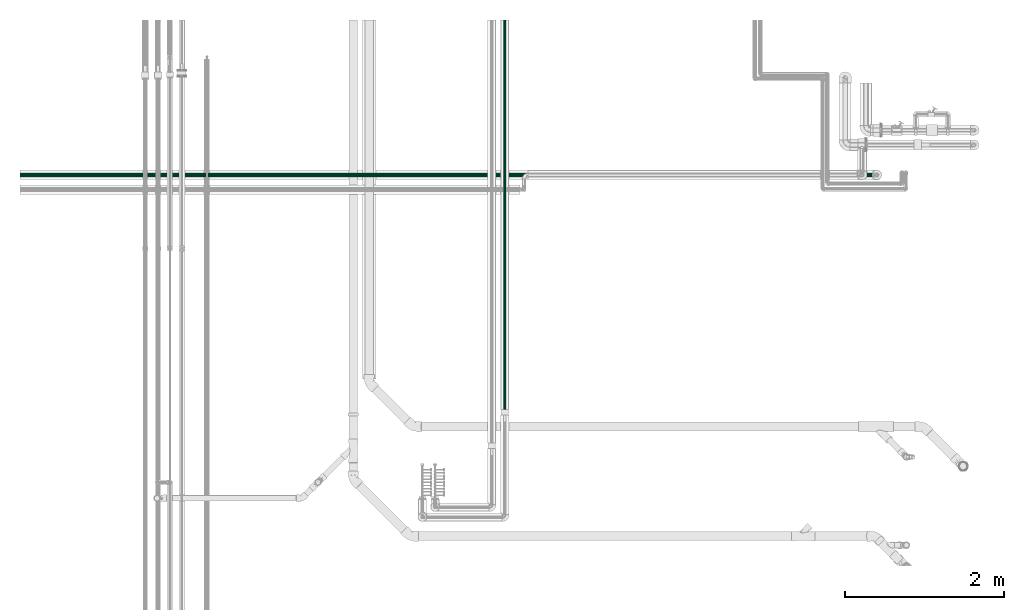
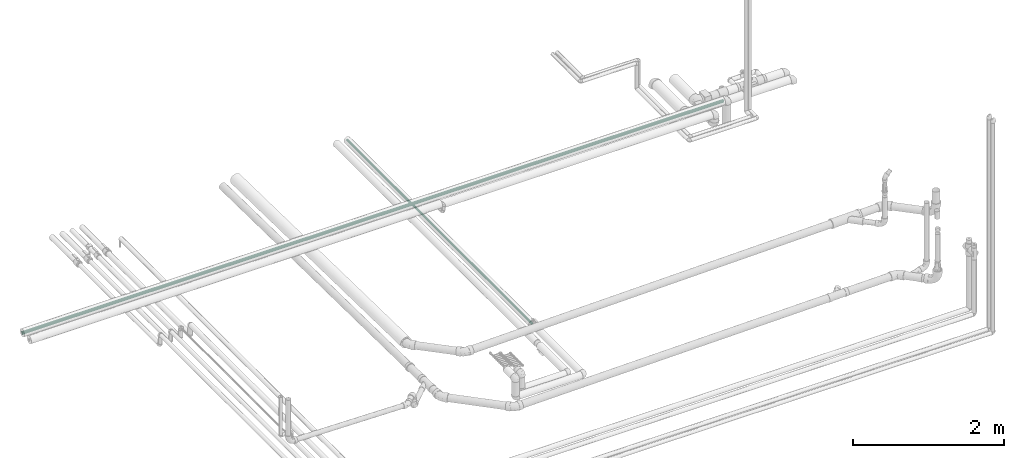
# One storey, part 53 of 83: 2 flow segments.
"""IFC2X3 building model written with IfcOpenShell, lengths in millimetres."""

from ifc_helpers import new_model, entity, si_unit, converted_unit, derived_unit, direction, frame, place, context, subcontext, project, spatial, faceted_brep, type_object, element, save


model = new_model("IFC2X3")

# Units and contexts
model_context = context("Model", 3, precision=0.01, world=frame((0.0, 4.29681676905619e-09, 0.0)), true_north=direction((4.01073788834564e-13, 1.0)))
plan_context = context("Plan", 3, precision=0.01, world=frame((0.0, 4.29681676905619e-09, 0.0)), true_north=direction((4.01073788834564e-13, 1.0)))
body_context = subcontext(model_context, "Body", "Model", "MODEL_VIEW")
ifc_project = project(units=[converted_unit("PLANEANGLEUNIT", "DEGREE", entity("IfcPositiveLengthMeasure", 0.0174532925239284), si_unit("PLANEANGLEUNIT", "RADIAN"), dimensions=[0, 0, 0, 0, 0, 0, 0]), si_unit("AREAUNIT", "SQUARE_METRE"), si_unit("LENGTHUNIT", "METRE", prefix="MILLI"), si_unit("MASSUNIT", "GRAM", prefix="KILO"), si_unit("POWERUNIT", "WATT"), si_unit("PRESSUREUNIT", "PASCAL"), si_unit("FORCEUNIT", "NEWTON", prefix="KILO"), si_unit("ELECTRICVOLTAGEUNIT", "VOLT"), si_unit("ELECTRICCURRENTUNIT", "AMPERE"), si_unit("THERMODYNAMICTEMPERATUREUNIT", "DEGREE_CELSIUS"), si_unit("TIMEUNIT", "SECOND"), si_unit("VOLUMEUNIT", "CUBIC_METRE"), derived_unit("LINEARVELOCITYUNIT", [(si_unit("LENGTHUNIT", "METRE"), 1), (si_unit("TIMEUNIT", "SECOND"), -1)]), derived_unit("VOLUMETRICFLOWRATEUNIT", [(si_unit("VOLUMEUNIT", "CUBIC_METRE"), 1), (si_unit("TIMEUNIT", "SECOND"), -1)]), derived_unit("THERMALTRANSMITTANCEUNIT", [(si_unit("POWERUNIT", "WATT"), 1), (si_unit("THERMODYNAMICTEMPERATUREUNIT", "KELVIN"), -1), (si_unit("AREAUNIT", "SQUARE_METRE"), -1)]), derived_unit("SOUNDPRESSUREUNIT", [(si_unit("PRESSUREUNIT", "PASCAL"), 1)])], contexts=[model_context, plan_context])

# Site, building, storey
site_placement = place(None, frame((0.0, -4.29681676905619e-09, 0.0), z_axis=(0.0, 0.0, 1.0), x_axis=(1.0, 0.0, 0.0)))
site = spatial("IfcSite", under=ifc_project, at=site_placement, Name="ENGM", CompositionType="ELEMENT")
building_placement = place(site_placement, frame((0.0, 4.29681676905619e-09, 0.0), z_axis=(0.0, 0.0, 1.0), x_axis=(1.0, 0.0, 0.0)))
building = spatial("IfcBuilding", under=site, at=building_placement, Name="TI", CompositionType="ELEMENT")
storey_placement = place(building_placement, frame((0.0, 0.0, 204000.0), z_axis=(0.0, 0.0, 1.0), x_axis=(1.0, 0.0, 0.0)))
storey = spatial("IfcBuildingStorey", under=building, at=storey_placement, Name="Nivå D", CompositionType="ELEMENT", Elevation=204000.0)

# Flow segments
pipe_segment_type = type_object("IfcPipeSegmentType", Name="Stålrør normaltykke", PredefinedType="RIGIDSEGMENT")
flow_segment_1_placement = place(storey_placement, frame((604084.1909, 694586.17748, 6040.48848), z_axis=(0.0, 0.0, 1.0), x_axis=(0.0, 1.0, 0.0)))
element("IfcFlowSegment", 1, at=flow_segment_1_placement, inside=storey, type_object=pipe_segment_type, Name="Stålrør normaltykke", context=body_context, shape_type="Brep", body=[
    faceted_brep([(4889.32251999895, 14.9, 0.0), (4889.32251999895, 14.6736355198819, -2.58735784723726), (0.0, 14.6736355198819, -2.58735784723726), (0.0, 14.9, 0.0), (4889.32251999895, 14.00142004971, -5.09610013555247), (0.0, 14.00142004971, -5.09610013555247), (4889.32251999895, 12.9037785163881, -7.45000000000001), (0.0, 12.9037785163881, -7.45000000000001), (4889.32251999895, 11.4140622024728, -9.57753538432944), (0.0, 11.4140622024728, -9.57753538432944), (4889.32251999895, 9.57753538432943, -11.4140622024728), (0.0, 9.57753538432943, -11.4140622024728), (4889.32251999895, 7.45, -12.9037785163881), (0.0, 7.45, -12.9037785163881), (4889.32251999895, 5.09610013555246, -14.00142004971), (0.0, 5.09610013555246, -14.00142004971), (4889.32251999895, 2.58735784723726, -14.6736355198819), (0.0, 2.58735784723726, -14.6736355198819), (4889.32251999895, -2.73708559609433e-15, -14.9), (0.0, -2.73708559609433e-15, -14.9), (4889.32251999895, -2.58735784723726, -14.6736355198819), (0.0, -2.58735784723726, -14.6736355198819), (4889.32251999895, -5.09610013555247, -14.00142004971), (0.0, -5.09610013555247, -14.00142004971), (4889.32251999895, -7.45000000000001, -12.9037785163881), (0.0, -7.45000000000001, -12.9037785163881), (4889.32251999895, -9.57753538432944, -11.4140622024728), (0.0, -9.57753538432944, -11.4140622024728), (4889.32251999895, -11.4140622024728, -9.57753538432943), (0.0, -11.4140622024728, -9.57753538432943), (4889.32251999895, -12.9037785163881, -7.45), (0.0, -12.9037785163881, -7.44999999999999), (4889.32251999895, -14.00142004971, -5.09610013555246), (0.0, -14.00142004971, -5.09610013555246), (4889.32251999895, -14.6736355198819, -2.58735784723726), (0.0, -14.6736355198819, -2.58735784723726), (4889.32251999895, -14.9, 1.82472373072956e-15), (0.0, -14.9, 1.82472373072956e-15), (4889.32251999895, -14.6736355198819, 2.58735784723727), (0.0, -14.6736355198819, 2.58735784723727), (4889.32251999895, -14.00142004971, 5.09610013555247), (0.0, -14.00142004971, 5.09610013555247), (4889.32251999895, -12.9037785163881, 7.45), (0.0, -12.9037785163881, 7.45), (4889.32251999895, -11.4140622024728, 9.57753538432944), (0.0, -11.4140622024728, 9.57753538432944), (4889.32251999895, -9.57753538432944, 11.4140622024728), (0.0, -9.57753538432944, 11.4140622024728), (4889.32251999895, -7.45, 12.9037785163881), (0.0, -7.45, 12.9037785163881), (4889.32251999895, -5.09610013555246, 14.00142004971), (0.0, -5.09610013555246, 14.00142004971), (4889.32251999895, -2.58735784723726, 14.6736355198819), (0.0, -2.58735784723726, 14.6736355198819), (4889.32251999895, 9.12361865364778e-16, 14.9), (0.0, 9.12361865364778e-16, 14.9), (4889.32251999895, 2.58735784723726, 14.6736355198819), (0.0, 2.58735784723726, 14.6736355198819), (4889.32251999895, 5.09610013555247, 14.00142004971), (0.0, 5.09610013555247, 14.00142004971), (4889.32251999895, 7.45, 12.9037785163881), (0.0, 7.45, 12.9037785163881), (4889.32251999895, 9.57753538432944, 11.4140622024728), (0.0, 9.57753538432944, 11.4140622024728), (4889.32251999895, 11.4140622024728, 9.57753538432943), (0.0, 11.4140622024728, 9.57753538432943), (4889.32251999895, 12.9037785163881, 7.45), (0.0, 12.9037785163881, 7.45), (4889.32251999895, 14.00142004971, 5.09610013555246), (0.0, 14.00142004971, 5.09610013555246), (4889.32251999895, 14.6736355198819, 2.58735784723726), (0.0, 14.6736355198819, 2.58735784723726), (4889.32251999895, 16.6432510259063, -2.93465420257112), (4889.32251999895, 16.9, 0.0), (0.0, 16.9, 0.0), (0.0, 16.6432510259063, -2.93465420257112), (4889.32251999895, 16.6432510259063, 2.93465420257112), (0.0, 16.6432510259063, 2.93465420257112), (4889.32251999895, 15.8808052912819, 5.7801404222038), (0.0, 15.8808052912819, 5.7801404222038), (4889.32251999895, 14.635829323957, 8.45), (0.0, 14.635829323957, 8.45), (4889.32251999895, 12.9461510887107, 10.8631106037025), (0.0, 12.9461510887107, 10.8631106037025), (4889.32251999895, 10.8631106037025, 12.9461510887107), (0.0, 10.8631106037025, 12.9461510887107), (4889.32251999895, 8.45, 14.635829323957), (0.0, 8.45, 14.635829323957), (4889.32251999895, 5.7801404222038, 15.8808052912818), (0.0, 5.7801404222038, 15.8808052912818), (4889.32251999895, 2.93465420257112, 16.6432510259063), (0.0, 2.93465420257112, 16.6432510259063), (4889.32251999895, 1.03482654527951e-15, 16.9), (0.0, 1.03482654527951e-15, 16.9), (4889.32251999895, -2.93465420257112, 16.6432510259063), (0.0, -2.93465420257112, 16.6432510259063), (4889.32251999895, -5.7801404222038, 15.8808052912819), (0.0, -5.7801404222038, 15.8808052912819), (4889.32251999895, -8.45, 14.635829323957), (0.0, -8.45, 14.635829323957), (4889.32251999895, -10.8631106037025, 12.9461510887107), (0.0, -10.8631106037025, 12.9461510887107), (4889.32251999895, -12.9461510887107, 10.8631106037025), (0.0, -12.9461510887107, 10.8631106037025), (4889.32251999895, -14.635829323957, 8.45), (0.0, -14.635829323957, 8.45), (4889.32251999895, -15.8808052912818, 5.7801404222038), (0.0, -15.8808052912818, 5.7801404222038), (4889.32251999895, -16.6432510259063, 2.93465420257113), (0.0, -16.6432510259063, 2.93465420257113), (4889.32251999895, -16.9, 2.06965309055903e-15), (0.0, -16.9, 2.06965309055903e-15), (4889.32251999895, -16.6432510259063, -2.93465420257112), (0.0, -16.6432510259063, -2.93465420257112), (4889.32251999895, -15.8808052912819, -5.7801404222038), (0.0, -15.8808052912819, -5.7801404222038), (4889.32251999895, -14.635829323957, -8.44999999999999), (0.0, -14.635829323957, -8.44999999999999), (4889.32251999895, -12.9461510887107, -10.8631106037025), (0.0, -12.9461510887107, -10.8631106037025), (4889.32251999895, -10.8631106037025, -12.9461510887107), (0.0, -10.8631106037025, -12.9461510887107), (4889.32251999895, -8.45000000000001, -14.635829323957), (0.0, -8.45000000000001, -14.635829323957), (4889.32251999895, -5.78014042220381, -15.8808052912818), (0.0, -5.78014042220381, -15.8808052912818), (4889.32251999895, -2.93465420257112, -16.6432510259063), (0.0, -2.93465420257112, -16.6432510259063), (4889.32251999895, -3.10447963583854e-15, -16.9), (0.0, -3.10447963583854e-15, -16.9), (4889.32251999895, 2.93465420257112, -16.6432510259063), (0.0, 2.93465420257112, -16.6432510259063), (4889.32251999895, 5.78014042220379, -15.8808052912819), (0.0, 5.78014042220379, -15.8808052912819), (4889.32251999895, 8.45, -14.635829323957), (0.0, 8.45, -14.635829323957), (4889.32251999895, 10.8631106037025, -12.9461510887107), (0.0, 10.8631106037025, -12.9461510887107), (4889.32251999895, 12.9461510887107, -10.8631106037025), (0.0, 12.9461510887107, -10.8631106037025), (4889.32251999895, 14.635829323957, -8.45000000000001), (0.0, 14.635829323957, -8.45000000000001), (4889.32251999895, 15.8808052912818, -5.78014042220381), (0.0, 15.8808052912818, -5.78014042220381)], [[[0, 1, 2, 3]], [[1, 4, 5, 2]], [[4, 6, 7, 5]], [[6, 8, 9, 7]], [[8, 10, 11, 9]], [[10, 12, 13, 11]], [[12, 14, 15, 13]], [[14, 16, 17, 15]], [[16, 18, 19, 17]], [[18, 20, 21, 19]], [[20, 22, 23, 21]], [[22, 24, 25, 23]], [[24, 26, 27, 25]], [[26, 28, 29, 27]], [[28, 30, 31, 29]], [[30, 32, 33, 31]], [[32, 34, 35, 33]], [[34, 36, 37, 35]], [[36, 38, 39, 37]], [[38, 40, 41, 39]], [[40, 42, 43, 41]], [[42, 44, 45, 43]], [[44, 46, 47, 45]], [[46, 48, 49, 47]], [[48, 50, 51, 49]], [[50, 52, 53, 51]], [[52, 54, 55, 53]], [[54, 56, 57, 55]], [[56, 58, 59, 57]], [[58, 60, 61, 59]], [[60, 62, 63, 61]], [[62, 64, 65, 63]], [[64, 66, 67, 65]], [[66, 68, 69, 67]], [[68, 70, 71, 69]], [[70, 0, 3, 71]], [[72, 73, 74, 75]], [[73, 76, 77, 74]], [[76, 78, 79, 77]], [[78, 80, 81, 79]], [[80, 82, 83, 81]], [[82, 84, 85, 83]], [[84, 86, 87, 85]], [[86, 88, 89, 87]], [[88, 90, 91, 89]], [[90, 92, 93, 91]], [[92, 94, 95, 93]], [[94, 96, 97, 95]], [[96, 98, 99, 97]], [[98, 100, 101, 99]], [[100, 102, 103, 101]], [[102, 104, 105, 103]], [[104, 106, 107, 105]], [[106, 108, 109, 107]], [[108, 110, 111, 109]], [[110, 112, 113, 111]], [[112, 114, 115, 113]], [[114, 116, 117, 115]], [[116, 118, 119, 117]], [[118, 120, 121, 119]], [[120, 122, 123, 121]], [[122, 124, 125, 123]], [[124, 126, 127, 125]], [[126, 128, 129, 127]], [[128, 130, 131, 129]], [[130, 132, 133, 131]], [[132, 134, 135, 133]], [[134, 136, 137, 135]], [[136, 138, 139, 137]], [[138, 140, 141, 139]], [[140, 142, 143, 141]], [[142, 72, 75, 143]], [[75, 74, 77, 79, 81, 83, 85, 87, 89, 91, 93, 95, 97, 99, 101, 103, 105, 107, 109, 111, 113, 115, 117, 119, 121, 123, 125, 127, 129, 131, 133, 135, 137, 139, 141, 143], [3, 2, 5, 7, 9, 11, 13, 15, 17, 19, 21, 23, 25, 27, 29, 31, 33, 35, 37, 39, 41, 43, 45, 47, 49, 51, 53, 55, 57, 59, 61, 63, 65, 67, 69, 71]], [[142, 140, 138, 136, 134, 132, 130, 128, 126, 124, 122, 120, 118, 116, 114, 112, 110, 108, 106, 104, 102, 100, 98, 96, 94, 92, 90, 88, 86, 84, 82, 80, 78, 76, 73, 72], [70, 68, 66, 64, 62, 60, 58, 56, 54, 52, 50, 48, 46, 44, 42, 40, 38, 36, 34, 32, 30, 28, 26, 24, 22, 20, 18, 16, 14, 12, 10, 8, 6, 4, 1, 0]]], orient=[[False], [False], [False], [False], [False], [False], [False], [False], [False], [False], [False], [False], [False], [False], [False], [False], [False], [False], [False], [False], [False], [False], [False], [False], [False], [False], [False], [False], [False], [False], [False], [False], [False], [False], [False], [False], [False], [False], [False], [False], [False], [False], [False], [False], [False], [False], [False], [False], [False], [False], [False], [False], [False], [False], [False], [False], [False], [False], [False], [False], [False], [False], [False], [False], [False], [False], [False], [False], [False], [False], [False], [False], [False, False], [False, False]]),
])
flow_segment_2_placement = place(storey_placement, frame((608704.37351, 697531.0, 6233.10000000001), z_axis=(0.0, 0.0, 1.0), x_axis=(-1.0, 0.0, 0.0)))
element("IfcFlowSegment", 2, at=flow_segment_2_placement, inside=storey, type_object=pipe_segment_type, Name="Stålrør normaltykke", context=body_context, shape_type="Brep", body=[
    faceted_brep([(10704.3735100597, 22.1, 0.0), (10704.3735100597, 21.7642513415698, -3.83762472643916), (0.0, 21.7642513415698, -3.83762472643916), (0.0, 22.1, 0.0), (10704.3735100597, 20.7672069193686, -7.5586451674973), (0.0, 20.7672069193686, -7.5586451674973), (10704.3735100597, 19.1391614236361, -11.05), (0.0, 19.1391614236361, -11.05), (10704.3735100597, 16.9295821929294, -14.2056061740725), (0.0, 16.9295821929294, -14.2056061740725), (10704.3735100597, 14.2056061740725, -16.9295821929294), (0.0, 14.2056061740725, -16.9295821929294), (10704.3735100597, 11.05, -19.1391614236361), (0.0, 11.05, -19.1391614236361), (10704.3735100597, 7.55864516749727, -20.7672069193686), (0.0, 7.55864516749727, -20.7672069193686), (10704.3735100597, 3.83762472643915, -21.7642513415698), (0.0, 3.83762472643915, -21.7642513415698), (10704.3735100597, -4.05970413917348e-15, -22.1), (0.0, -4.05970413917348e-15, -22.1), (10704.3735100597, -3.83762472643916, -21.7642513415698), (0.0, -3.83762472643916, -21.7642513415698), (10704.3735100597, -7.55864516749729, -20.7672069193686), (0.0, -7.55864516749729, -20.7672069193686), (10704.3735100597, -11.05, -19.1391614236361), (0.0, -11.05, -19.1391614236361), (10704.3735100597, -14.2056061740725, -16.9295821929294), (0.0, -14.2056061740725, -16.9295821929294), (10704.3735100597, -16.9295821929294, -14.2056061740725), (0.0, -16.9295821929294, -14.2056061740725), (10704.3735100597, -19.1391614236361, -11.05), (0.0, -19.1391614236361, -11.05), (10704.3735100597, -20.7672069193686, -7.55864516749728), (0.0, -20.7672069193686, -7.55864516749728), (10704.3735100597, -21.7642513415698, -3.83762472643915), (0.0, -21.7642513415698, -3.83762472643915), (10704.3735100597, -22.1, 2.70646942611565e-15), (0.0, -22.1, 2.70646942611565e-15), (10704.3735100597, -21.7642513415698, 3.83762472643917), (0.0, -21.7642513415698, 3.83762472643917), (10704.3735100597, -20.7672069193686, 7.55864516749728), (0.0, -20.7672069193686, 7.55864516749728), (10704.3735100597, -19.1391614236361, 11.05), (0.0, -19.1391614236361, 11.05), (10704.3735100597, -16.9295821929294, 14.2056061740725), (0.0, -16.9295821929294, 14.2056061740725), (10704.3735100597, -14.2056061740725, 16.9295821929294), (0.0, -14.2056061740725, 16.9295821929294), (10704.3735100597, -11.05, 19.1391614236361), (0.0, -11.05, 19.1391614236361), (10704.3735100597, -7.55864516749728, 20.7672069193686), (0.0, -7.55864516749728, 20.7672069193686), (10704.3735100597, -3.83762472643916, 21.7642513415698), (0.0, -3.83762472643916, 21.7642513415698), (10704.3735100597, 1.35323471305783e-15, 22.1), (0.0, 1.35323471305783e-15, 22.1), (10704.3735100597, 3.83762472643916, 21.7642513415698), (0.0, 3.83762472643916, 21.7642513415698), (10704.3735100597, 7.55864516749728, 20.7672069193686), (0.0, 7.55864516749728, 20.7672069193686), (10704.3735100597, 11.05, 19.1391614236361), (0.0, 11.05, 19.1391614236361), (10704.3735100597, 14.2056061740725, 16.9295821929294), (0.0, 14.2056061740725, 16.9295821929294), (10704.3735100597, 16.9295821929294, 14.2056061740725), (0.0, 16.9295821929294, 14.2056061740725), (10704.3735100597, 19.1391614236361, 11.05), (0.0, 19.1391614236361, 11.05), (10704.3735100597, 20.7672069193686, 7.55864516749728), (0.0, 20.7672069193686, 7.55864516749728), (10704.3735100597, 21.7642513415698, 3.83762472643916), (0.0, 21.7642513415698, 3.83762472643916), (10704.3735100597, 23.7338668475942, -4.18492108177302), (10704.3735100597, 24.1, 0.0), (0.0, 24.1, 0.0), (0.0, 23.7338668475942, -4.18492108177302), (10704.3735100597, 23.7338668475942, 4.18492108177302), (0.0, 23.7338668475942, 4.18492108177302), (10704.3735100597, 22.6465921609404, 8.24268545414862), (0.0, 22.6465921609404, 8.24268545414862), (10704.3735100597, 20.871212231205, 12.05), (0.0, 20.871212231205, 12.05), (10704.3735100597, 18.4616710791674, 15.4911813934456), (0.0, 18.4616710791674, 15.4911813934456), (10704.3735100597, 15.4911813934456, 18.4616710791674), (0.0, 15.4911813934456, 18.4616710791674), (10704.3735100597, 12.05, 20.871212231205), (0.0, 12.05, 20.871212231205), (10704.3735100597, 8.24268545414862, 22.6465921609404), (0.0, 8.24268545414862, 22.6465921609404), (10704.3735100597, 4.18492108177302, 23.7338668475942), (0.0, 4.18492108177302, 23.7338668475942), (10704.3735100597, 1.47569939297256e-15, 24.1), (0.0, 1.47569939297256e-15, 24.1), (10704.3735100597, -4.18492108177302, 23.7338668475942), (0.0, -4.18492108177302, 23.7338668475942), (10704.3735100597, -8.24268545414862, 22.6465921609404), (0.0, -8.24268545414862, 22.6465921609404), (10704.3735100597, -12.05, 20.871212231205), (0.0, -12.05, 20.871212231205), (10704.3735100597, -15.4911813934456, 18.4616710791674), (0.0, -15.4911813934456, 18.4616710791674), (10704.3735100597, -18.4616710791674, 15.4911813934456), (0.0, -18.4616710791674, 15.4911813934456), (10704.3735100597, -20.871212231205, 12.05), (0.0, -20.871212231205, 12.05), (10704.3735100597, -22.6465921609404, 8.24268545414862), (0.0, -22.6465921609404, 8.24268545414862), (10704.3735100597, -23.7338668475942, 4.18492108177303), (0.0, -23.7338668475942, 4.18492108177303), (10704.3735100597, -24.1, 2.95139878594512e-15), (0.0, -24.1, 2.95139878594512e-15), (10704.3735100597, -23.7338668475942, -4.18492108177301), (0.0, -23.7338668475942, -4.18492108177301), (10704.3735100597, -22.6465921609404, -8.24268545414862), (0.0, -22.6465921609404, -8.24268545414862), (10704.3735100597, -20.871212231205, -12.05), (0.0, -20.871212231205, -12.05), (10704.3735100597, -18.4616710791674, -15.4911813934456), (0.0, -18.4616710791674, -15.4911813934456), (10704.3735100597, -15.4911813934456, -18.4616710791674), (0.0, -15.4911813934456, -18.4616710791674), (10704.3735100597, -12.05, -20.871212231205), (0.0, -12.05, -20.871212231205), (10704.3735100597, -8.24268545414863, -22.6465921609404), (0.0, -8.24268545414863, -22.6465921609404), (10704.3735100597, -4.18492108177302, -23.7338668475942), (0.0, -4.18492108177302, -23.7338668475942), (10704.3735100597, -4.42709817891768e-15, -24.1), (0.0, -4.42709817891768e-15, -24.1), (10704.3735100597, 4.18492108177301, -23.7338668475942), (0.0, 4.18492108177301, -23.7338668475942), (10704.3735100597, 8.2426854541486, -22.6465921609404), (0.0, 8.2426854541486, -22.6465921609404), (10704.3735100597, 12.05, -20.871212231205), (0.0, 12.05, -20.871212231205), (10704.3735100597, 15.4911813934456, -18.4616710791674), (0.0, 15.4911813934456, -18.4616710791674), (10704.3735100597, 18.4616710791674, -15.4911813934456), (0.0, 18.4616710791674, -15.4911813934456), (10704.3735100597, 20.871212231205, -12.05), (0.0, 20.871212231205, -12.05), (10704.3735100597, 22.6465921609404, -8.24268545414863), (0.0, 22.6465921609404, -8.24268545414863)], [[[0, 1, 2, 3]], [[1, 4, 5, 2]], [[4, 6, 7, 5]], [[6, 8, 9, 7]], [[8, 10, 11, 9]], [[10, 12, 13, 11]], [[12, 14, 15, 13]], [[14, 16, 17, 15]], [[16, 18, 19, 17]], [[18, 20, 21, 19]], [[20, 22, 23, 21]], [[22, 24, 25, 23]], [[24, 26, 27, 25]], [[26, 28, 29, 27]], [[28, 30, 31, 29]], [[30, 32, 33, 31]], [[32, 34, 35, 33]], [[34, 36, 37, 35]], [[36, 38, 39, 37]], [[38, 40, 41, 39]], [[40, 42, 43, 41]], [[42, 44, 45, 43]], [[44, 46, 47, 45]], [[46, 48, 49, 47]], [[48, 50, 51, 49]], [[50, 52, 53, 51]], [[52, 54, 55, 53]], [[54, 56, 57, 55]], [[56, 58, 59, 57]], [[58, 60, 61, 59]], [[60, 62, 63, 61]], [[62, 64, 65, 63]], [[64, 66, 67, 65]], [[66, 68, 69, 67]], [[68, 70, 71, 69]], [[70, 0, 3, 71]], [[72, 73, 74, 75]], [[73, 76, 77, 74]], [[76, 78, 79, 77]], [[78, 80, 81, 79]], [[80, 82, 83, 81]], [[82, 84, 85, 83]], [[84, 86, 87, 85]], [[86, 88, 89, 87]], [[88, 90, 91, 89]], [[90, 92, 93, 91]], [[92, 94, 95, 93]], [[94, 96, 97, 95]], [[96, 98, 99, 97]], [[98, 100, 101, 99]], [[100, 102, 103, 101]], [[102, 104, 105, 103]], [[104, 106, 107, 105]], [[106, 108, 109, 107]], [[108, 110, 111, 109]], [[110, 112, 113, 111]], [[112, 114, 115, 113]], [[114, 116, 117, 115]], [[116, 118, 119, 117]], [[118, 120, 121, 119]], [[120, 122, 123, 121]], [[122, 124, 125, 123]], [[124, 126, 127, 125]], [[126, 128, 129, 127]], [[128, 130, 131, 129]], [[130, 132, 133, 131]], [[132, 134, 135, 133]], [[134, 136, 137, 135]], [[136, 138, 139, 137]], [[138, 140, 141, 139]], [[140, 142, 143, 141]], [[142, 72, 75, 143]], [[75, 74, 77, 79, 81, 83, 85, 87, 89, 91, 93, 95, 97, 99, 101, 103, 105, 107, 109, 111, 113, 115, 117, 119, 121, 123, 125, 127, 129, 131, 133, 135, 137, 139, 141, 143], [3, 2, 5, 7, 9, 11, 13, 15, 17, 19, 21, 23, 25, 27, 29, 31, 33, 35, 37, 39, 41, 43, 45, 47, 49, 51, 53, 55, 57, 59, 61, 63, 65, 67, 69, 71]], [[142, 140, 138, 136, 134, 132, 130, 128, 126, 124, 122, 120, 118, 116, 114, 112, 110, 108, 106, 104, 102, 100, 98, 96, 94, 92, 90, 88, 86, 84, 82, 80, 78, 76, 73, 72], [70, 68, 66, 64, 62, 60, 58, 56, 54, 52, 50, 48, 46, 44, 42, 40, 38, 36, 34, 32, 30, 28, 26, 24, 22, 20, 18, 16, 14, 12, 10, 8, 6, 4, 1, 0]]], orient=[[False], [False], [False], [False], [False], [False], [False], [False], [False], [False], [False], [False], [False], [False], [False], [False], [False], [False], [False], [False], [False], [False], [False], [False], [False], [False], [False], [False], [False], [False], [False], [False], [False], [False], [False], [False], [False], [False], [False], [False], [False], [False], [False], [False], [False], [False], [False], [False], [False], [False], [False], [False], [False], [False], [False], [False], [False], [False], [False], [False], [False], [False], [False], [False], [False], [False], [False], [False], [False], [False], [False], [False], [False, False], [False, False]]),
])

save(model, "model.ifc")
